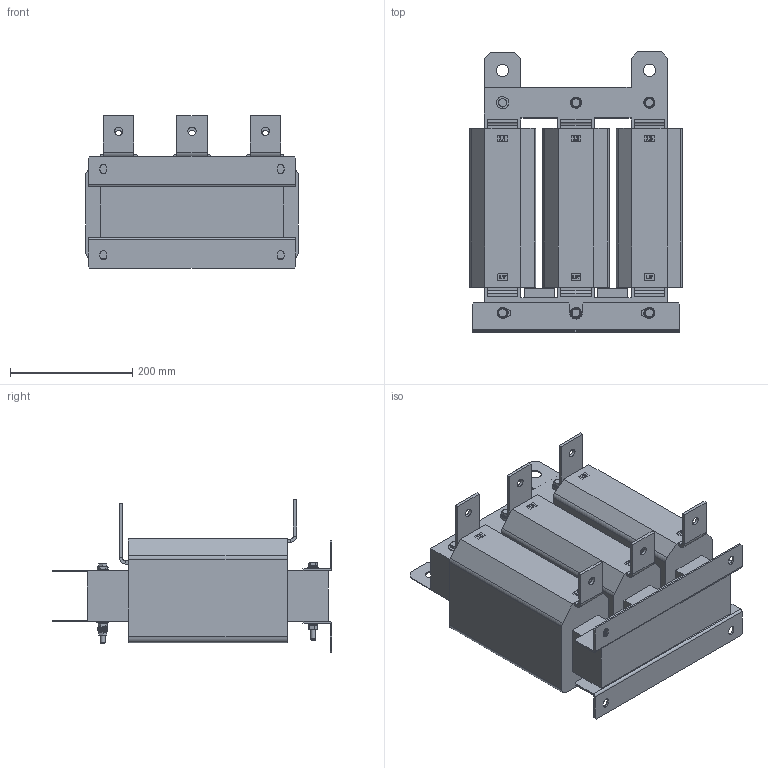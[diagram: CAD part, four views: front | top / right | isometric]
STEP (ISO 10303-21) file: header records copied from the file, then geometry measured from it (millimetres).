
FILE_DESCRIPTION(/* description */ ('raw material description'),/* implementation_level */ '2;1');
FILE_NAME(/* name */ 'P:\Construction\Filter_Marketing\RWK\RWK3044_RWK3062\RWK3044\RWK3044-640-99-E0XXX.stp',/* time_stamp */ '2018-08-27T11:06:59+02:00',/* author */ ('Erika.Jenzer'),/* organization */ ('Schaffner EMV AG'),/* preprocessor_version */ 'ST-DEVELOPER v16.5',/* originating_system */ 'Autodesk Inventor 2017',/* authorisation */ '');
FILE_SCHEMA (('AP203_CONFIGURATION_CONTROLLED_3D_DESIGN_OF_MECHANICAL_PARTS_AND_ASSEMBLIES_MIM_LF { 1 0 10303 203 3 1 4 }','AUTOMOTIVE_DESIGN { 1 0 10303 214 3 1 1 }'));
Length unit declared in the file: millimetre
Products named in the file (1): RWK3044-640-99-E0XXX
Bounding box: 348 x 458 x 248.8 mm (x, y, z)
Volume: 17091718.2 mm3; surface area: 826927.5 mm2
Topology: 39 solids, 50 shells, 1054 faces, 2569 edges, 1693 vertices
Faces by surface type: plane 725, cylinder 163, cone 109, bspline 50, torus 7
Full cylindrical faces by diameter (mm): 8 x19, 8.2 x6, 8.4 x14, 9.9 x5, 10.5 x3, 11.4 x6, 13 x1, 13.5 x6, 16 x12, 18 x5, 20 x4
Entity records: 30798 total; most frequent: CARTESIAN_POINT 6135, ORIENTED_EDGE 4834, DIRECTION 4552, EDGE_CURVE 2410, LINE 1690, VECTOR 1690, VERTEX_POINT 1652, AXIS2_PLACEMENT_3D 1431
